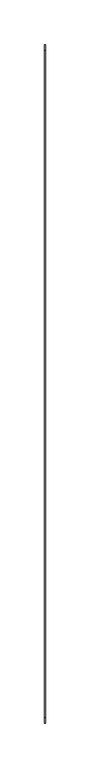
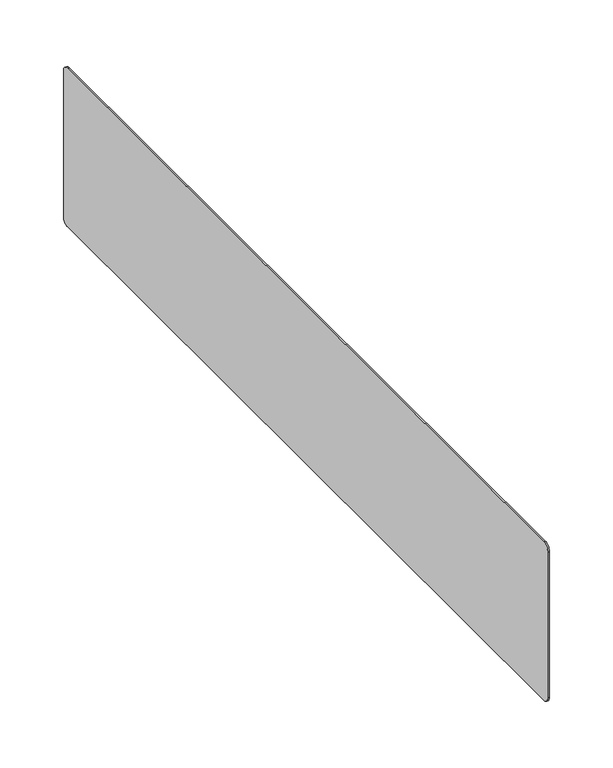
"""IFC4 building model written with IfcOpenShell, lengths in millimetres: furniture geometry, Steelcase Turnstone - Bivi - Arch Accessories - Markerboard : 30W x 6H."""

from ifc_helpers import new_model, si_unit, point, frame, frame_2d, origin, place, context, project, spatial, polyline, circle_curve, trimmed, segment, composite_curve, outline, extrude, source, transform, mapped, element, save


def furniture_06153b70(model_context):
    return source(origin(), model_context, "Body", "SweptSolid", [
        extrude(outline(composite_curve([segment(polyline([(-141.3509954, 1051.7378), (607.9490046, 1051.7378)]), True, "CONTINUOUS"), segment(trimmed(circle_curve(frame_2d((607.9490046, 1045.3878)), 6.35), [point((607.9490046, 1051.7378))], [point((614.2990046, 1045.3878))], False, "CARTESIAN"), True, "CONTINUOUS"), segment(polyline([(614.2990046, 1045.3878), (614.2990046, 905.6878)]), True, "CONTINUOUS"), segment(trimmed(circle_curve(frame_2d((607.9490046, 905.6878)), 6.35), [point((614.2990046, 905.6878))], [point((607.9490046, 899.3378))], False, "CARTESIAN"), True, "CONTINUOUS"), segment(polyline([(607.9490046, 899.3378), (-141.3509954, 899.3378)]), True, "CONTINUOUS"), segment(trimmed(circle_curve(frame_2d((-141.3509954, 905.6878)), 6.35), [point((-141.3509954, 899.3378))], [point((-147.7009954, 905.6878))], False, "CARTESIAN"), True, "CONTINUOUS"), segment(polyline([(-147.7009954, 905.6878), (-147.7009954, 1045.3878)]), True, "CONTINUOUS"), segment(trimmed(circle_curve(frame_2d((-141.3509954, 1045.3878)), 6.35), [point((-147.7009954, 1045.3878))], [point((-141.3509954, 1051.7378))], False, "CARTESIAN"), True, "CONTINUOUS")], self_intersect=False)), frame((-3.5306, 0.0, 0.0), z_axis=(1.0, 0.0, 0.0), x_axis=(0.0, 1.0, 0.0)), (0.0, 0.0, 1.0), 1.3716),
    ])


if __name__ == "__main__":
    model = new_model("IFC4")
    model_context = context("Model", 3, world=origin())
    ifc_project = project(units=[si_unit("LENGTHUNIT", "METRE", prefix="MILLI")], contexts=[model_context])
    site = spatial("IfcSite", under=ifc_project)
    building = spatial("IfcBuilding", under=site)
    placement = place(None, origin())
    furniture_shape = furniture_06153b70(model_context)
    element("IfcFurniture", 1, ObjectType="Steelcase Turnstone - Bivi - Arch Accessories - Markerboard : 30W x 6H", at=placement, inside=building, context=model_context, shape_type="MappedRepresentation", body=[
        mapped(furniture_shape, transform((0.0, 0.0, 0.0), x_axis=(1.0, 0.0, 0.0), y_axis=(0.0, 1.0, 0.0), z_axis=(0.0, 0.0, 1.0))),
    ])
    save(model, "model.ifc")
